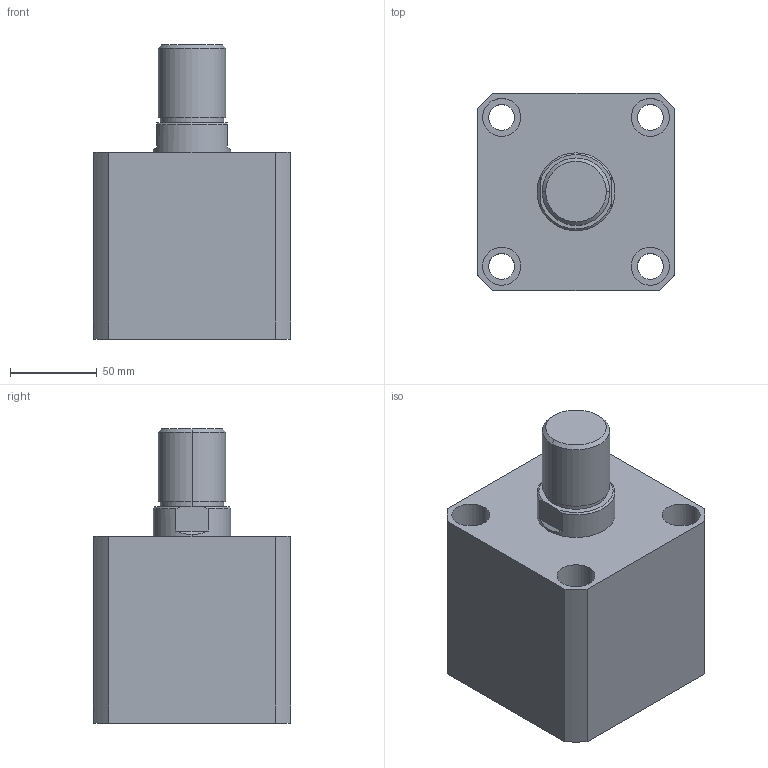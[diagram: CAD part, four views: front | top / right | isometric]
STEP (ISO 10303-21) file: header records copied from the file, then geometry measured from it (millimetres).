
FILE_DESCRIPTION (( 'STEP AP203' ), '1' );
FILE_NAME ('HTB-SDMB80-30W.STEP', '2019-10-09T06:01:56', ( '微软用户' ), ( '微软中国' ), 'SwSTEP 2.0', 'SolidWorks 2012', '' );
FILE_SCHEMA (( 'CONFIG_CONTROL_DESIGN' ));
Length unit declared in the file: millimetre
Products named in the file (3): HTB-SDMB80-30掛极; HTB-SDMB80-30W活塞杆; HTB-SDMB80-30W
Assembly tree (2 placements, depth 2):
  HTB-SDMB80-30W
    HTB-SDMB80-30掛极
    HTB-SDMB80-30W活塞杆
Bounding box: 114 x 114 x 170 mm (x, y, z)
Volume: 1261192.1 mm3; surface area: 155964.9 mm2
Topology: 2 solids, 2 shells, 141 faces, 337 edges, 222 vertices
Faces by surface type: plane 67, cylinder 48, bspline 16, torus 6, cone 4
Entity records: 5180 total; most frequent: CARTESIAN_POINT 1597, ORIENTED_EDGE 674, DIRECTION 669, EDGE_CURVE 337, AXIS2_PLACEMENT_3D 242, VERTEX_POINT 222, LINE 185, VECTOR 185
